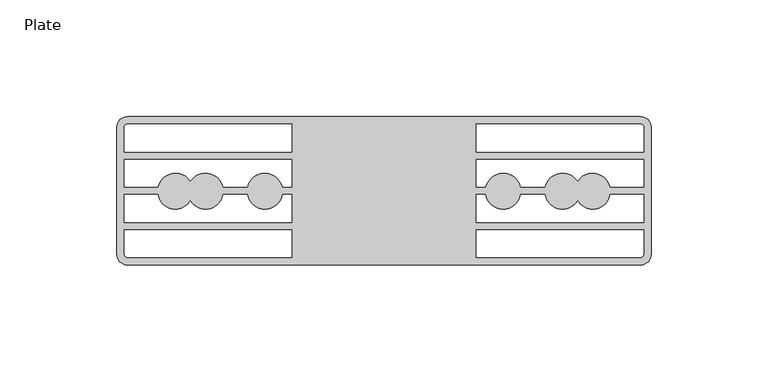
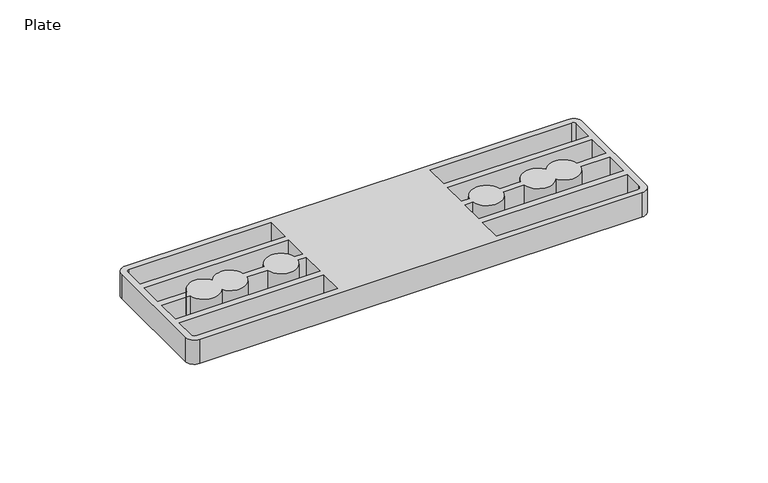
"""IFC4 building model written with IfcOpenShell, lengths in millimetres: furniture geometry, Steelcase - C Scape - Desking Support - Shared Support Plate : Plate."""

from ifc_helpers import new_model, si_unit, point, frame, frame_2d, origin, place, context, project, spatial, polyline, circle_curve, trimmed, segment, composite_curve, outline, extrude, source, transform, mapped, element, save


def plate_62663991(model_context):
    return source(origin(), model_context, "Body", "SweptSolid", [
        extrude(outline(composite_curve([segment(trimmed(circle_curve(frame_2d((109.728, -4.572)), 4.572), [point((109.728, 0.0))], [point((114.3, -4.572))], False, "CARTESIAN"), True, "CONTINUOUS"), segment(polyline([(114.3, -4.572), (114.3, -58.9279985)]), True, "CONTINUOUS"), segment(trimmed(circle_curve(frame_2d((109.728, -58.9279985)), 4.572), [point((114.3, -58.9279985))], [point((109.728, -63.4999985))], False, "CARTESIAN"), True, "CONTINUOUS"), segment(polyline([(109.728, -63.4999985), (-109.728, -63.4999985)]), True, "CONTINUOUS"), segment(trimmed(circle_curve(frame_2d((-109.728, -58.9279985)), 4.572), [point((-109.728, -63.4999985))], [point((-114.3, -58.9279985))], False, "CARTESIAN"), True, "CONTINUOUS"), segment(polyline([(-114.3, -58.9279985), (-114.3, -4.572)]), True, "CONTINUOUS"), segment(trimmed(circle_curve(frame_2d((-109.728, -4.572)), 4.572), [point((-114.3, -4.572))], [point((-109.728, 0.0))], False, "CARTESIAN"), True, "CONTINUOUS"), segment(polyline([(-109.728, 0.0), (109.728, 0.0)]), True, "CONTINUOUS")], self_intersect=False), holes=[composite_curve([segment(trimmed(circle_curve(frame_2d((-109.8584242, -4.4415803)), 1.2665788), [point((-109.8584242, -3.1750015))], [point((-111.125003, -4.4415803))], True, "CARTESIAN"), True, "CONTINUOUS"), segment(polyline([(-111.125003, -4.4415803), (-111.125003, -15.0812515), (-39.3699988, -15.0812515), (-39.3699988, -3.1750015), (-109.8584242, -3.1750015)]), True, "CONTINUOUS")], self_intersect=False), composite_curve([segment(trimmed(circle_curve(frame_2d((-109.4285067, -58.6285052)), 1.6964963), [point((-111.125003, -58.6285052))], [point((-109.4285067, -60.3250015))], True, "CARTESIAN"), True, "CONTINUOUS"), segment(polyline([(-109.4285067, -60.3250015), (-39.3699988, -60.3250015), (-39.3699988, -48.4187515), (-111.125003, -48.4187515), (-111.125003, -58.6285052)]), True, "CONTINUOUS")], self_intersect=False), composite_curve([segment(polyline([(-39.3699988, -18.256253), (-111.125003, -18.256253), (-111.125003, -30.162503), (-96.8324763, -30.162503)]), True, "CONTINUOUS"), segment(trimmed(circle_curve(frame_2d((-89.271333, -31.8923898)), 7.7565067), [point((-96.8324763, -30.162503))], [point((-82.810725, -27.600078))], False, "CARTESIAN"), True, "CONTINUOUS"), segment(trimmed(circle_curve(frame_2d((-76.3501169, -31.8923898)), 7.7565067), [point((-82.810725, -27.600078))], [point((-68.7889736, -30.162503))], False, "CARTESIAN"), True, "CONTINUOUS"), segment(polyline([(-68.7889736, -30.162503), (-58.5112603, -30.162503)]), True, "CONTINUOUS"), segment(trimmed(circle_curve(frame_2d((-50.9501169, -31.8923898)), 7.7565067), [point((-58.5112603, -30.162503))], [point((-43.3889736, -30.162503))], False, "CARTESIAN"), True, "CONTINUOUS"), segment(polyline([(-43.3889736, -30.162503), (-39.3699988, -30.162503), (-39.3699988, -18.256253)]), True, "CONTINUOUS")], self_intersect=False), composite_curve([segment(trimmed(circle_curve(frame_2d((-50.9501169, -31.8923898)), 7.7565067), [point((-43.3294188, -33.3375045))], [point((-58.5708151, -33.3375045))], False, "CARTESIAN"), True, "CONTINUOUS"), segment(polyline([(-58.5708151, -33.3375045), (-68.7294188, -33.3375045)]), True, "CONTINUOUS"), segment(trimmed(circle_curve(frame_2d((-76.3501169, -31.8923898)), 7.7565067), [point((-68.7294188, -33.3375045))], [point((-82.810725, -36.1847016))], False, "CARTESIAN"), True, "CONTINUOUS"), segment(trimmed(circle_curve(frame_2d((-89.271333, -31.8923898)), 7.7565067), [point((-82.810725, -36.1847016))], [point((-96.8920311, -33.3375045))], False, "CARTESIAN"), True, "CONTINUOUS"), segment(polyline([(-96.8920311, -33.3375045), (-111.125003, -33.3375045), (-111.125003, -45.2437545), (-39.3699988, -45.2437545), (-39.3699988, -33.3375045), (-43.3294188, -33.3375045)]), True, "CONTINUOUS")], self_intersect=False), composite_curve([segment(polyline([(109.8584242, -3.1750015), (39.3699988, -3.1750015), (39.3699988, -15.0812515), (111.125003, -15.0812515), (111.125003, -4.4415803)]), True, "CONTINUOUS"), segment(trimmed(circle_curve(frame_2d((109.8584242, -4.4415803)), 1.2665788), [point((111.125003, -4.4415803))], [point((109.8584242, -3.1750015))], True, "CARTESIAN"), True, "CONTINUOUS")], self_intersect=False), composite_curve([segment(polyline([(111.125003, -58.6285052), (111.125003, -48.4187515), (39.3699988, -48.4187515), (39.3699988, -60.3250015), (109.4285067, -60.3250015)]), True, "CONTINUOUS"), segment(trimmed(circle_curve(frame_2d((109.4285067, -58.6285052)), 1.6964963), [point((109.4285067, -60.3250015))], [point((111.125003, -58.6285052))], True, "CARTESIAN"), True, "CONTINUOUS")], self_intersect=False), composite_curve([segment(polyline([(39.3699988, -18.256253), (39.3699988, -30.162503), (43.3889736, -30.162503)]), True, "CONTINUOUS"), segment(trimmed(circle_curve(frame_2d((50.9501169, -31.8923898)), 7.7565067), [point((43.3889736, -30.162503))], [point((58.5112603, -30.162503))], False, "CARTESIAN"), True, "CONTINUOUS"), segment(polyline([(58.5112603, -30.162503), (68.7889736, -30.162503)]), True, "CONTINUOUS"), segment(trimmed(circle_curve(frame_2d((76.3501169, -31.8923898)), 7.7565067), [point((68.7889736, -30.162503))], [point((82.810725, -27.600078))], False, "CARTESIAN"), True, "CONTINUOUS"), segment(trimmed(circle_curve(frame_2d((89.271333, -31.8923898)), 7.7565067), [point((82.810725, -27.600078))], [point((96.8324763, -30.162503))], False, "CARTESIAN"), True, "CONTINUOUS"), segment(polyline([(96.8324763, -30.162503), (111.125003, -30.162503), (111.125003, -18.256253), (39.3699988, -18.256253)]), True, "CONTINUOUS")], self_intersect=False), composite_curve([segment(polyline([(43.3294188, -33.3375045), (39.3699988, -33.3375045), (39.3699988, -45.2437545), (111.125003, -45.2437545), (111.125003, -33.3375045), (96.8920311, -33.3375045)]), True, "CONTINUOUS"), segment(trimmed(circle_curve(frame_2d((89.271333, -31.8923898)), 7.7565067), [point((96.8920311, -33.3375045))], [point((82.810725, -36.1847016))], False, "CARTESIAN"), True, "CONTINUOUS"), segment(trimmed(circle_curve(frame_2d((76.3501169, -31.8923898)), 7.7565067), [point((82.810725, -36.1847016))], [point((68.7294188, -33.3375045))], False, "CARTESIAN"), True, "CONTINUOUS"), segment(polyline([(68.7294188, -33.3375045), (58.5708151, -33.3375045)]), True, "CONTINUOUS"), segment(trimmed(circle_curve(frame_2d((50.9501169, -31.8923898)), 7.7565067), [point((58.5708151, -33.3375045))], [point((43.3294188, -33.3375045))], False, "CARTESIAN"), True, "CONTINUOUS")], self_intersect=False)]), frame((0.0, 0.0, 703.3768), z_axis=(0.0, 0.0, 1.0), x_axis=(1.0, 0.0, 0.0)), (0.0, 0.0, 1.0), 12.7),
    ])


if __name__ == "__main__":
    model = new_model("IFC4")
    model_context = context("Model", 3, world=origin())
    ifc_project = project(units=[si_unit("LENGTHUNIT", "METRE", prefix="MILLI")], contexts=[model_context])
    site = spatial("IfcSite", under=ifc_project)
    building = spatial("IfcBuilding", under=site)
    placement = place(None, origin())
    plate_shape = plate_62663991(model_context)
    element("IfcFurniture", 1, ObjectType="Steelcase - C Scape - Desking Support - Shared Support Plate : Plate", at=placement, inside=building, context=model_context, shape_type="MappedRepresentation", body=[
        mapped(plate_shape, transform((0.0, 0.0, 0.0), x_axis=(1.0, 0.0, 0.0), y_axis=(0.0, 1.0, 0.0), z_axis=(0.0, 0.0, 1.0))),
    ])
    save(model, "model.ifc")
